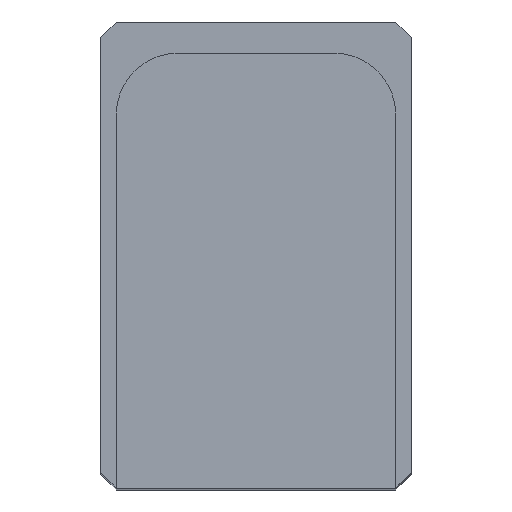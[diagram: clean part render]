
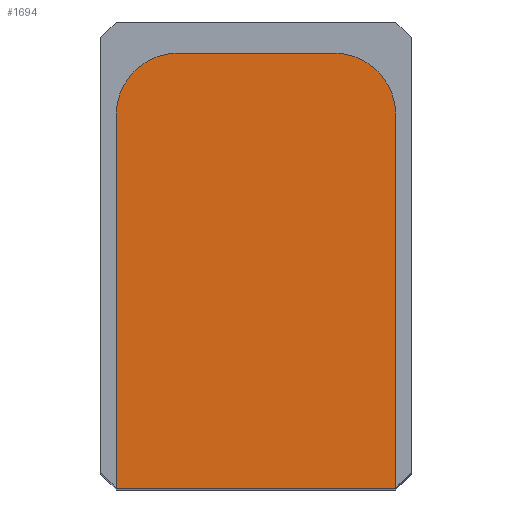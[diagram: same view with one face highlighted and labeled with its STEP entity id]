
A CAD part, top view. The second image highlights one B-rep face of the part: STEP entity #1694.
In plain terms, the highlighted planar face has unit normal (0, 0, 1).
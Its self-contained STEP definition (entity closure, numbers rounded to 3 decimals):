
#16 = DIRECTION ( 'NONE',  ( 0., 0., -1. ) ) ;
#24 = LINE ( 'NONE', #1035, #1521 ) ;
#28 = CARTESIAN_POINT ( 'NONE',  ( 2., 14., 0.5 ) ) ;
#69 = ORIENTED_EDGE ( 'NONE', *, *, #232, .T. ) ;
#78 = EDGE_CURVE ( 'NONE', #249, #793, #24, .T. ) ;
#162 = VERTEX_POINT ( 'NONE', #1770 ) ;
#225 = AXIS2_PLACEMENT_3D ( 'NONE', #682, #1676, #1690 ) ;
#228 = ORIENTED_EDGE ( 'NONE', *, *, #824, .T. ) ;
#232 = EDGE_CURVE ( 'NONE', #717, #1325, #1289, .T. ) ;
#249 = VERTEX_POINT ( 'NONE', #786 ) ;
#344 = VECTOR ( 'NONE', #733, 1000. ) ;
#371 = VECTOR ( 'NONE', #1785, 1000. ) ;
#442 = CARTESIAN_POINT ( 'NONE',  ( 0., 12., 0.5 ) ) ;
#527 = LINE ( 'NONE', #1428, #344 ) ;
#574 = PLANE ( 'NONE',  #1538 ) ;
#599 = CARTESIAN_POINT ( 'NONE',  ( 9., 0., 0.5 ) ) ;
#619 = ORIENTED_EDGE ( 'NONE', *, *, #912, .T. ) ;
#655 = CIRCLE ( 'NONE', #225, 2. ) ;
#675 = CARTESIAN_POINT ( 'NONE',  ( 7., 12., 0.5 ) ) ;
#682 = CARTESIAN_POINT ( 'NONE',  ( 2., 12., 0.5 ) ) ;
#684 = LINE ( 'NONE', #599, #1019 ) ;
#702 = DIRECTION ( 'NONE',  ( -1., 0., 0. ) ) ;
#717 = VERTEX_POINT ( 'NONE', #442 ) ;
#733 = DIRECTION ( 'NONE',  ( 1., 0., 0. ) ) ;
#774 = ORIENTED_EDGE ( 'NONE', *, *, #1517, .T. ) ;
#786 = CARTESIAN_POINT ( 'NONE',  ( 7., 14., 0.5 ) ) ;
#793 = VERTEX_POINT ( 'NONE', #28 ) ;
#824 = EDGE_CURVE ( 'NONE', #1325, #1003, #527, .T. ) ;
#855 = ORIENTED_EDGE ( 'NONE', *, *, #78, .T. ) ;
#882 = FACE_OUTER_BOUND ( 'NONE', #986, .T. ) ;
#883 = DIRECTION ( 'NONE',  ( 0., 1., 0. ) ) ;
#912 = EDGE_CURVE ( 'NONE', #1003, #162, #684, .T. ) ;
#928 = CARTESIAN_POINT ( 'NONE',  ( 0., 0., 0.5 ) ) ;
#986 = EDGE_LOOP ( 'NONE', ( #69, #228, #619, #1068, #855, #774 ) ) ;
#991 = DIRECTION ( 'NONE',  ( -1., 0., 0. ) ) ;
#1003 = VERTEX_POINT ( 'NONE', #1449 ) ;
#1019 = VECTOR ( 'NONE', #883, 1000. ) ;
#1035 = CARTESIAN_POINT ( 'NONE',  ( 2., 14., 0.5 ) ) ;
#1068 = ORIENTED_EDGE ( 'NONE', *, *, #1395, .T. ) ;
#1275 = CARTESIAN_POINT ( 'NONE',  ( 2., 12., 0.5 ) ) ;
#1289 = LINE ( 'NONE', #928, #371 ) ;
#1325 = VERTEX_POINT ( 'NONE', #1515 ) ;
#1395 = EDGE_CURVE ( 'NONE', #162, #249, #1541, .T. ) ;
#1428 = CARTESIAN_POINT ( 'NONE',  ( 0., 0., 0.5 ) ) ;
#1449 = CARTESIAN_POINT ( 'NONE',  ( 9., 0., 0.5 ) ) ;
#1515 = CARTESIAN_POINT ( 'NONE',  ( 0., 0., 0.5 ) ) ;
#1517 = EDGE_CURVE ( 'NONE', #793, #717, #655, .T. ) ;
#1521 = VECTOR ( 'NONE', #1762, 1000. ) ;
#1538 = AXIS2_PLACEMENT_3D ( 'NONE', #1275, #16, #991 ) ;
#1541 = CIRCLE ( 'NONE', #1686, 2. ) ;
#1676 = DIRECTION ( 'NONE',  ( 0., 0., 1. ) ) ;
#1686 = AXIS2_PLACEMENT_3D ( 'NONE', #675, #1841, #702 ) ;
#1690 = DIRECTION ( 'NONE',  ( -1., 0., 0. ) ) ;
#1694 = ADVANCED_FACE ( 'NONE', ( #882 ), #574, .F. ) ;
#1762 = DIRECTION ( 'NONE',  ( -1., 0., 0. ) ) ;
#1770 = CARTESIAN_POINT ( 'NONE',  ( 9., 12., 0.5 ) ) ;
#1785 = DIRECTION ( 'NONE',  ( 0., -1., 0. ) ) ;
#1841 = DIRECTION ( 'NONE',  ( 0., 0., 1. ) ) ;
